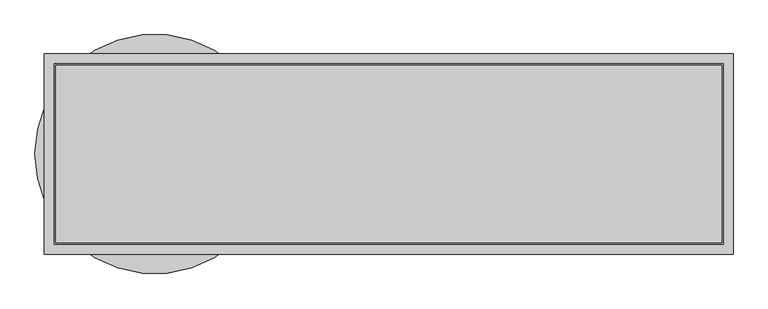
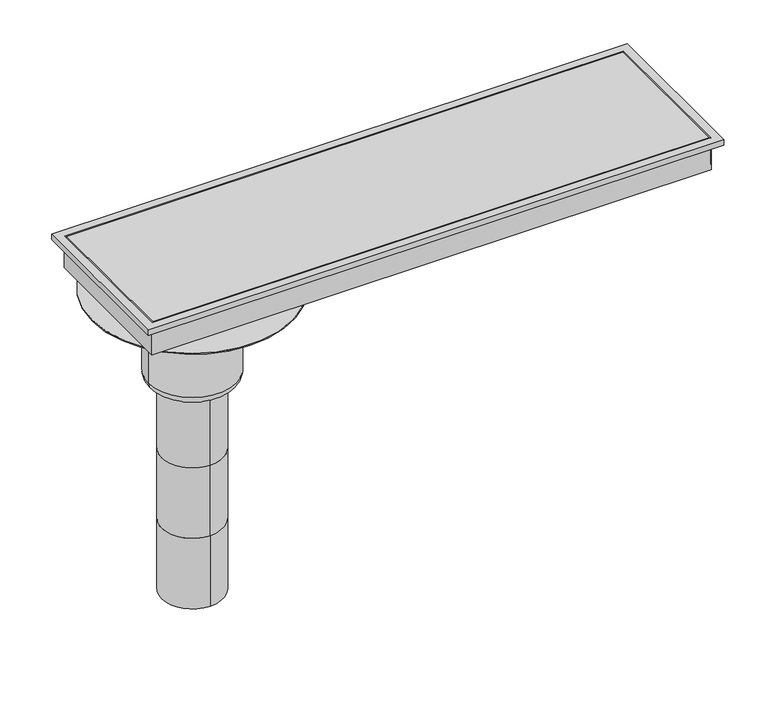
"""IFC4 building model written with IfcOpenShell, lengths in millimetres: sanitary terminal geometry, PF_ST_UN_Siphon telescopics eskis elongated hygiene first_ACO : 300 x 1000 telescopic hygienic gully 157mm outlet DN110 gully top offset."""

from ifc_helpers import new_model, si_unit, point, frame, origin, origin_2d, place, context, project, spatial, polyline, circle_curve, ellipse_curve, trimmed, segment, composite_curve, outline, extrude, faceted_brep, source, transform, mapped, element, save
from ifc_brep_helpers import plane_surface, cylinder_surface, revolved_surface, advanced_brep


def sanitary_terminal_f401182c(model_context):
    return source(origin(), model_context, "Body", "SolidModel", [
        extrude(outline(composite_curve([segment(trimmed(circle_curve(origin_2d(), 71.5), [point((-71.5, 0.0))], [point((71.5, 0.0))], False, "CARTESIAN"), True, "CONTINUOUS"), segment(trimmed(circle_curve(origin_2d(), 71.5), [point((71.5, 0.0))], [point((-71.5, 0.0))], False, "CARTESIAN"), True, "CONTINUOUS")], self_intersect=False)), frame((0.0, 0.0, -240.0), z_axis=(0.0, 0.0, 1.0), x_axis=(1.0, 0.0, 0.0)), (0.0, 0.0, 1.0), 60.0),
        faceted_brep([(865.0, 150.0, -130.0), (865.0, 150.0, -120.0), (865.0, -150.0, -120.0), (865.0, -150.0, -130.0), (851.0, 136.0, -180.0), (851.0, 136.0, -130.0), (851.0, -136.0, -130.0), (851.0, -136.0, -180.0), (850.0, -135.0, -120.0), (850.0, 135.0, -120.0), (850.0, 135.0, -170.0), (850.0, -135.0, -170.0), (-165.0, -150.0, -120.0), (-165.0, -150.0, -130.0), (-151.0, -136.0, -130.0), (-151.0, -136.0, -180.0), (-150.0, -135.0, -120.0), (-150.0, -135.0, -170.0), (-165.0, 150.0, -120.0), (-165.0, 150.0, -130.0), (-151.0, 136.0, -130.0), (-151.0, 136.0, -180.0), (-150.0, 135.0, -120.0), (-150.0, 135.0, -170.0)], [[[0, 1, 2, 3]], [[4, 5, 6, 7]], [[8, 9, 10, 11]], [[3, 2, 12, 13]], [[7, 6, 14, 15]], [[16, 8, 11, 17]], [[13, 12, 18, 19]], [[15, 14, 20, 21]], [[22, 16, 17, 23]], [[2, 1, 18, 12], [9, 8, 16, 22]], [[1, 0, 19, 18]], [[0, 3, 13, 19], [6, 5, 20, 14]], [[5, 4, 21, 20]], [[4, 7, 15, 21]], [[9, 22, 23, 10]], [[11, 10, 23, 17]]]),
        extrude(outline(polyline([(848.0, 133.0), (848.0, -133.0), (-148.0, -133.0), (-148.0, 133.0), (848.0, 133.0)])), frame((0.0, 0.0, -170.0), z_axis=(0.0, 0.0, 1.0), x_axis=(1.0, 0.0, 0.0)), (0.0, 0.0, 1.0), 50.0),
        advanced_brep(
        [(0.0, -55.0, -758.0), (0.0, 55.0, -758.0), (0.0, -55.0, -624.6666667), (0.0, 55.0, -624.6666667), (0.0, -55.0, -491.3333333), (0.0, 55.0, -491.3333333), (0.0, 55.0, -358.0), (55.0, 0.0, -358.0), (0.0, -55.0, -358.0), (-55.0, 0.0, -358.0), (78.5, 0.0, -341.5), (-78.5, 0.0, -341.5), (-78.5, 0.0, -189.0), (78.5, 0.0, -189.0), (62.0, 0.0, -358.0), (-62.0, 0.0, -358.0), (-179.0, 0.0, -189.0), (179.0, 0.0, -189.0), (-179.0, 0.0, -187.0), (179.0, 0.0, -187.0)],
        [
            (0, 1, circle_curve(frame((0.0, 0.0, -758.0), z_axis=(0.0, 0.0, -1.0), x_axis=(0.0, 1.0, 0.0)), 55.0)),
            (1, 0, circle_curve(frame((0.0, 0.0, -758.0), z_axis=(0.0, 0.0, -1.0), x_axis=(0.0, 1.0, 0.0)), 55.0)),
            (0, 2),
            (2, 3, circle_curve(frame((0.0, 0.0, -624.6666667), z_axis=(0.0, 0.0, -1.0), x_axis=(0.0, 1.0, 0.0)), 55.0)),
            (3, 1),
            (3, 2, circle_curve(frame((0.0, 0.0, -624.6666667), z_axis=(0.0, 0.0, -1.0), x_axis=(0.0, 1.0, 0.0)), 55.0)),
            (4, 2),
            (3, 5),
            (5, 4, circle_curve(frame((0.0, 0.0, -491.3333333), z_axis=(0.0, 0.0, -1.0), x_axis=(1.0, 0.0, 0.0)), 55.0)),
            (4, 5, circle_curve(frame((0.0, 0.0, -491.3333333), z_axis=(0.0, 0.0, -1.0), x_axis=(-1.0, 0.0, 0.0)), 55.0)),
            (5, 6),
            (6, 7, circle_curve(frame((0.0, 0.0, -358.0), z_axis=(0.0, 0.0, -1.0), x_axis=(0.0, 1.0, 0.0)), 55.0)),
            (7, 8, circle_curve(frame((0.0, 0.0, -358.0), z_axis=(0.0, 0.0, -1.0), x_axis=(0.0, 1.0, 0.0)), 55.0)),
            (8, 4),
            (8, 9, circle_curve(frame((0.0, 0.0, -358.0), z_axis=(0.0, 0.0, -1.0), x_axis=(0.0, 1.0, 0.0)), 55.0)),
            (9, 6, circle_curve(frame((0.0, 0.0, -358.0), z_axis=(0.0, 0.0, -1.0), x_axis=(0.0, 1.0, 0.0)), 55.0)),
            (10, 11, circle_curve(frame((0.0, 0.0, -341.5), z_axis=(0.0, 0.0, 1.0), x_axis=(-1.0, 0.0, 0.0)), 78.5)),
            (11, 12),
            (12, 13, circle_curve(frame((0.0, 0.0, -189.0), z_axis=(0.0, 0.0, -1.0), x_axis=(-1.0, 0.0, 0.0)), 78.5)),
            (13, 10),
            (11, 10, circle_curve(frame((0.0, 0.0, -341.5), z_axis=(0.0, 0.0, 1.0), x_axis=(-1.0, 0.0, 0.0)), 78.5)),
            (13, 12, circle_curve(frame((0.0, 0.0, -189.0), z_axis=(0.0, 0.0, -1.0), x_axis=(-1.0, 0.0, 0.0)), 78.5)),
            (10, 14, circle_curve(frame((62.0, 0.0, -341.5), z_axis=(0.0, 1.0, 0.0), x_axis=(-1.0, 0.0, 0.0)), 16.5)),
            (14, 15, circle_curve(frame((0.0, 0.0, -358.0), z_axis=(0.0, 0.0, 1.0), x_axis=(-1.0, 0.0, 0.0)), 62.0)),
            (15, 11, circle_curve(frame((-62.0, 0.0, -341.5), z_axis=(0.0, 1.0, 0.0), x_axis=(1.0, 0.0, 0.0)), 16.5)),
            (15, 14, circle_curve(frame((0.0, 0.0, -358.0), z_axis=(0.0, 0.0, 1.0), x_axis=(-1.0, 0.0, 0.0)), 62.0)),
            (14, 7),
            (9, 15),
            (16, 17, circle_curve(frame((0.0, 0.0, -189.0), z_axis=(0.0, 0.0, -1.0), x_axis=(1.0, 0.0, 0.0)), 179.0)),
            (17, 16, circle_curve(frame((0.0, 0.0, -189.0), z_axis=(0.0, 0.0, -1.0), x_axis=(1.0, 0.0, 0.0)), 179.0)),
            (18, 19, circle_curve(frame((0.0, 0.0, -187.0), z_axis=(0.0, 0.0, 1.0), x_axis=(1.0, 0.0, 0.0)), 179.0)),
            (19, 18, circle_curve(frame((0.0, 0.0, -187.0), z_axis=(0.0, 0.0, 1.0), x_axis=(1.0, 0.0, 0.0)), 179.0)),
            (17, 19),
            (18, 16),
        ],
        [
            plane_surface(frame((0.0, 55.0, -758.0), z_axis=(0.0, 0.0, -1.0), x_axis=(1.0, 0.0, 0.0))),
            cylinder_surface(frame((0.0, 0.0, -624.6666667), z_axis=(0.0, 0.0, -1.0), x_axis=(0.0, 1.0, 0.0)), 55.0),
            cylinder_surface(frame((0.0, 0.0, -491.3333333), z_axis=(0.0, 0.0, -1.0), x_axis=(1.0, 0.0, 0.0)), 55.0),
            cylinder_surface(frame((0.0, 0.0, -491.3333333), z_axis=(0.0, 0.0, -1.0), x_axis=(-1.0, 0.0, 0.0)), 55.0),
            cylinder_surface(frame((0.0, 0.0, -358.0), z_axis=(0.0, 0.0, -1.0), x_axis=(0.0, 1.0, 0.0)), 55.0),
            cylinder_surface(frame((0.0, 0.0, -127.0), z_axis=(0.0, 0.0, -1.0), x_axis=(-1.0, 0.0, 0.0)), 78.5),
            revolved_surface(trimmed(ellipse_curve(frame((-62.0, 0.0, -341.5), z_axis=(0.0, -1.0, 0.0), x_axis=(1.0, 0.0, 0.0)), 16.5, 16.5), [point((-78.5, 0.0, -341.5))], [point((-62.0, 0.0, -358.0))], True, "CARTESIAN"), (0.0, 0.0, -127.0), (0.0, 0.0, -1.0)),
            plane_surface(frame((0.0, 0.0, -358.0), z_axis=(0.0, 0.0, -1.0), x_axis=(-1.0, 0.0, 0.0))),
            plane_surface(frame((179.0, 0.0, -189.0), z_axis=(0.0, 0.0, -1.0), x_axis=(0.0, -1.0, 0.0))),
            plane_surface(frame((179.0, 0.0, -187.0), z_axis=(0.0, 0.0, 1.0), x_axis=(0.0, 1.0, 0.0))),
            cylinder_surface(frame((0.0, 0.0, -189.0), z_axis=(0.0, 0.0, 1.0), x_axis=(1.0, 0.0, 0.0)), 179.0),
        ],
        [
            (0, [[1, 2]]),
            (1, [[-1, 3, 4, 5]]),
            (1, [[-2, -5, 6, -3]]),
            (2, [[7, -6, 8, 9]]),
            (3, [[-7, 10, -8, -4]]),
            (4, [[11, 12, 13, 14, -9]]),
            (4, [[-11, -10, -14, 15, 16]]),
            (5, [[17, 18, 19, 20]]),
            (5, [[-18, 21, -20, 22]]),
            (6, [[-17, 23, 24, 25]]),
            (6, [[-21, -25, 26, -23]]),
            (7, [[-24, 27, -12, -16, 28]]),
            (7, [[-26, -28, -15, -13, -27]]),
            (8, [[29, 30], [-19, -22]]),
            (9, [[31, 32]]),
            (10, [[-30, 33, -31, 34]]),
            (10, [[-29, -34, -32, -33]]),
        ],
    ),
    ])


if __name__ == "__main__":
    model = new_model("IFC4")
    model_context = context("Model", 3, world=origin())
    ifc_project = project(units=[si_unit("LENGTHUNIT", "METRE", prefix="MILLI")], contexts=[model_context])
    site = spatial("IfcSite", under=ifc_project)
    building = spatial("IfcBuilding", under=site)
    placement = place(None, origin())
    sanitary_terminal_shape = sanitary_terminal_f401182c(model_context)
    element("IfcSanitaryTerminal", 1, ObjectType="PF_ST_UN_Siphon telescopics eskis elongated hygiene first_ACO : 300 x 1000 telescopic hygienic gully 157mm outlet DN110 gully top offset", at=placement, inside=building, context=model_context, shape_type="MappedRepresentation", body=[
        mapped(sanitary_terminal_shape, transform((0.0, 0.0, 0.0), x_axis=(1.0, 0.0, 0.0), y_axis=(0.0, 1.0, 0.0), z_axis=(0.0, 0.0, 1.0))),
    ])
    save(model, "model.ifc")
